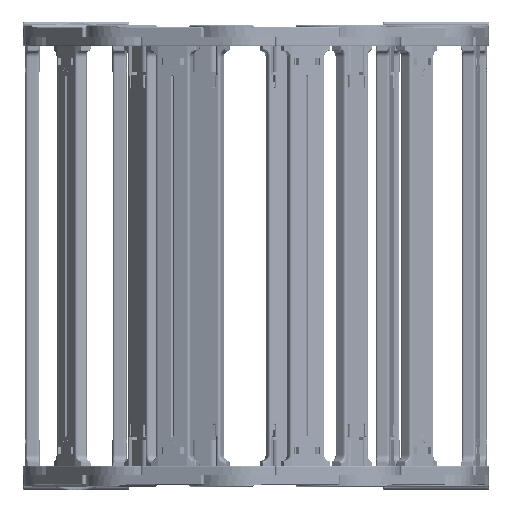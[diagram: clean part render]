
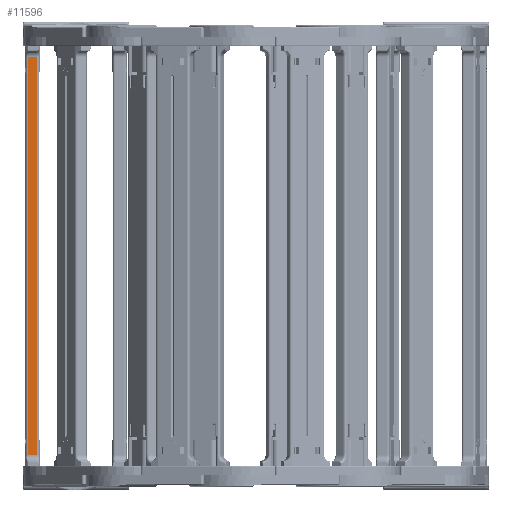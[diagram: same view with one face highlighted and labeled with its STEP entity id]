
A CAD part, left-side view. The second image highlights one B-rep face of the part: STEP entity #11596.
In plain terms, the highlighted planar face has unit normal (-1, 0, 0) as drawn and (0, -1, 0) by its records, which use the part's own axes.
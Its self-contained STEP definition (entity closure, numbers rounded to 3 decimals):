
#1044 = DIRECTION ( 'NONE',  ( 0., 1., 0. ) ) ;
#1857 = DIRECTION ( 'NONE',  ( 1., 0., 0. ) ) ;
#2985 = LINE ( 'NONE', #22296, #28465 ) ;
#3070 = LINE ( 'NONE', #9858, #26328 ) ;
#4264 = VERTEX_POINT ( 'NONE', #35052 ) ;
#4689 = EDGE_CURVE ( 'NONE', #24570, #7623, #29337, .T. ) ;
#7623 = VERTEX_POINT ( 'NONE', #15810 ) ;
#9385 = ORIENTED_EDGE ( 'NONE', *, *, #18720, .T. ) ;
#9858 = CARTESIAN_POINT ( 'NONE',  ( -40.804, -15., 11.5 ) ) ;
#11290 = DIRECTION ( 'NONE',  ( 0., 0., -1. ) ) ;
#11545 = VECTOR ( 'NONE', #28298, 1000. ) ;
#11596 = ADVANCED_FACE ( 'NONE', ( #36497 ), #18495, .F. ) ;
#13225 = EDGE_LOOP ( 'NONE', ( #36504, #36983, #17315, #9385 ) ) ;
#14808 = VECTOR ( 'NONE', #11290, 1000. ) ;
#15810 = CARTESIAN_POINT ( 'NONE',  ( 290.804, -15., 2. ) ) ;
#16770 = CARTESIAN_POINT ( 'NONE',  ( -40.804, -15., 9.5 ) ) ;
#17315 = ORIENTED_EDGE ( 'NONE', *, *, #27671, .T. ) ;
#18495 = PLANE ( 'NONE',  #26658 ) ;
#18720 = EDGE_CURVE ( 'NONE', #4264, #34287, #3070, .T. ) ;
#19300 = LINE ( 'NONE', #16770, #11545 ) ;
#21443 = DIRECTION ( 'NONE',  ( 0., 0., 1. ) ) ;
#21756 = CARTESIAN_POINT ( 'NONE',  ( 290.804, -15., 9.5 ) ) ;
#22296 = CARTESIAN_POINT ( 'NONE',  ( 40.804, -15., 2. ) ) ;
#22397 = CARTESIAN_POINT ( 'NONE',  ( -40.804, -15., 2. ) ) ;
#22685 = EDGE_CURVE ( 'NONE', #34287, #7623, #2985, .T. ) ;
#24570 = VERTEX_POINT ( 'NONE', #21756 ) ;
#26328 = VECTOR ( 'NONE', #27296, 1000. ) ;
#26658 = AXIS2_PLACEMENT_3D ( 'NONE', #27136, #1044, #21443 ) ;
#27136 = CARTESIAN_POINT ( 'NONE',  ( -40.804, -15., 11.5 ) ) ;
#27296 = DIRECTION ( 'NONE',  ( 0., 0., -1. ) ) ;
#27671 = EDGE_CURVE ( 'NONE', #24570, #4264, #19300, .T. ) ;
#28298 = DIRECTION ( 'NONE',  ( -1., 0., 0. ) ) ;
#28465 = VECTOR ( 'NONE', #1857, 1000. ) ;
#28717 = CARTESIAN_POINT ( 'NONE',  ( 290.804, -15., 11.5 ) ) ;
#29337 = LINE ( 'NONE', #28717, #14808 ) ;
#34287 = VERTEX_POINT ( 'NONE', #22397 ) ;
#35052 = CARTESIAN_POINT ( 'NONE',  ( -40.804, -15., 9.5 ) ) ;
#36497 = FACE_OUTER_BOUND ( 'NONE', #13225, .T. ) ;
#36504 = ORIENTED_EDGE ( 'NONE', *, *, #22685, .T. ) ;
#36983 = ORIENTED_EDGE ( 'NONE', *, *, #4689, .F. ) ;
